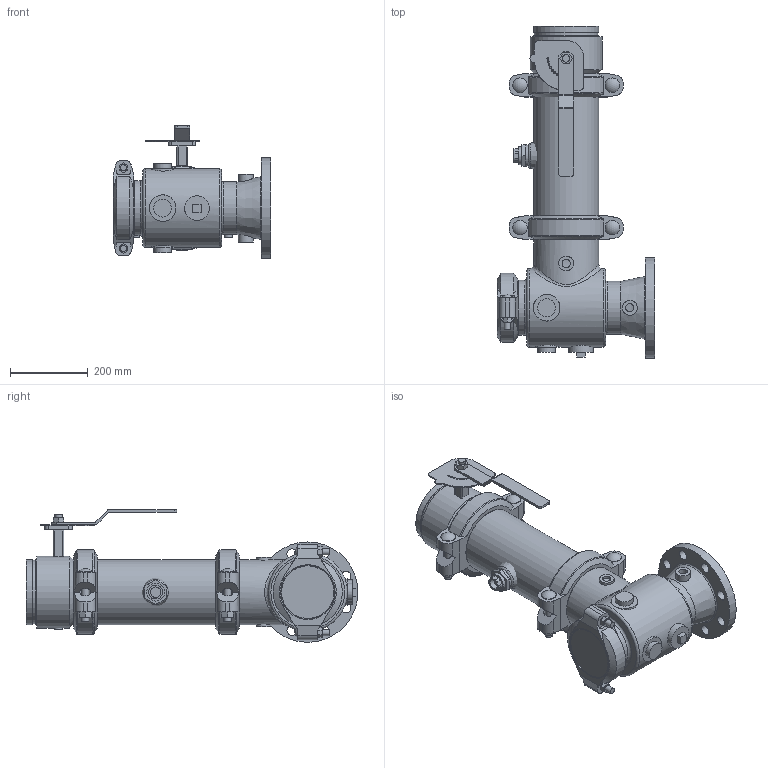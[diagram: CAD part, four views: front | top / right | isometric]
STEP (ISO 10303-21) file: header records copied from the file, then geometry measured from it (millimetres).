
FILE_DESCRIPTION(/* description */ ('VIC SVI PUMP DROP HORZ S/391 (OGSxFLG)','CAx-IF Rec.Pracs.---Representation and Presentation of Product Manufacturing Information (PMI)---4.0---2014-10-13'),/* implementation_level */ '2;1');
FILE_NAME(/* name */ 'C:\Users\Vjadhav\AppData\Roaming\Autodesk\ApplicationPlugins\Victaulic.Temp\A952\Victaulic_IPS_SVI_CL 150_Series 391 (OGSxFLG)_06.0x05.0 (150x125).stp',/* time_stamp */ '2021-04-09T17:54:18+05:00',/* author */ ('kkamble'),/* organization */ ('Victaulic'),/* preprocessor_version */ 'ST-DEVELOPER v17.2',/* originating_system */ 'Autodesk Inventor 2019',/* authorisation */ '');
FILE_SCHEMA (('AP242_MANAGED_MODEL_BASED_3D_ENGINEERING_MIM_LF { 1 0 10303 442 1 1 4 }'));
Length unit declared in the file: inch
Products named in the file (9): 391-06.0x05.0; 731D-06.0x05.0; 731D-06.0x05.0_1; 731D-06.0; 07-05.0; PIPE-06.0; 177N-06.0; 761-06.0; 923-04.0x0.75
Assembly tree (9 placements, depth 3):
  391-06.0x05.0
    731D-06.0x05.0
      731D-06.0x05.0_1
      731D-06.0
      07-05.0
    177N-06.0  x2
    PIPE-06.0
    761-06.0
    923-04.0x0.75
Bounding box: 406.4 x 856.49 x 342.39 mm (x, y, z)
Volume: 11418030.3 mm3; surface area: 1723258.4 mm2
Topology: 8 solids, 11 shells, 532 faces, 1378 edges, 930 vertices
Faces by surface type: plane 298, cylinder 191, cone 19, torus 17, sphere 6, bspline 1
Full cylindrical faces by diameter (mm): 4.826 x10, 8.636 x4, 15.875 x4, 19.05 x6, 21.336 x4, 22.86 x1, 25.4 x2, 26.01 x8, 26.67 x1, 37.694 x4, 38.1 x4, 45.72 x3, 45.974 x2, 55.118 x1, 55.626 x1, 63.5 x1, 104.902 x1, 112.776 x1, 121.412 x1, 127 x1, 134.95 x1, 136.144 x1, 137.033 x2, 141.3 x5, 146.558 x1, 154.051 x2, 155.575 x2, 163.957 x5, 168.275 x13, 185.42 x1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
Entity records: 15681 total; most frequent: CARTESIAN_POINT 3595, DIRECTION 2485, ORIENTED_EDGE 2276, EDGE_CURVE 1138, AXIS2_PLACEMENT_3D 948, VERTEX_POINT 771, LINE 589, VECTOR 589
